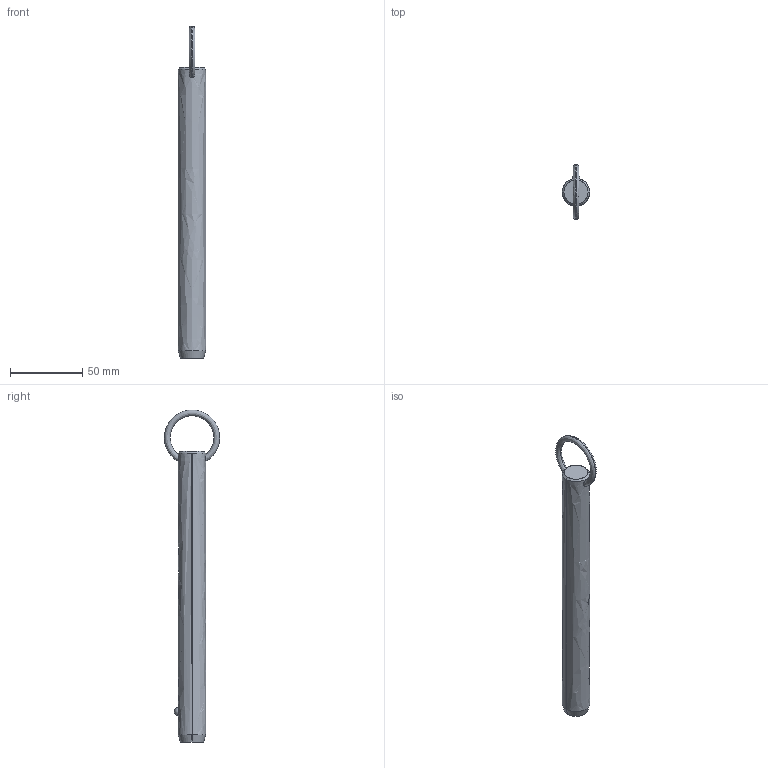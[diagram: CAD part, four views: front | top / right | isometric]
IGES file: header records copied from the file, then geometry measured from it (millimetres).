
Start section: SolidWorks IGES file using analytic representation for surfaces
Global section: file name: C:\Users\liam_\OneDrive\Documents\WORK\Work for WixRoyd\Job Files\J-00019 - Matt Davis CAD Checking\04. CAD Drawings\automotion20190605\P1250.2_v2\P1250.2_v2_20190729_IGES\P1250.075-660.igs; native system: SolidWorks 2017; preprocessor: SolidWorks 2017; author: liam_; date: 190730.000017; units: millimetre
Bounding box: 19 x 38.07 x 229.4 mm (x, y, z)
Surface area: 13518.6 mm2 (no closed solid volume)
Topology: 0 solids, 0 shells, 12 faces, 294 edges, 292 vertices
Faces by surface type: revolution 8, bspline 4
